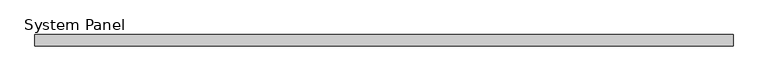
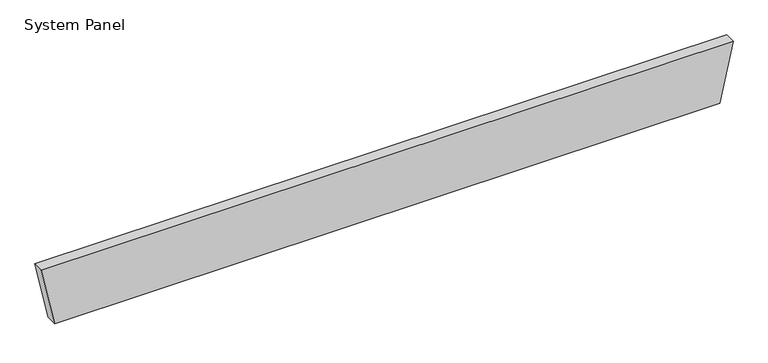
"""IFC4 building model written with IfcOpenShell, lengths in millimetres: plate geometry, System Panel : MetecnoPanel_200mm_Plain_Surfmist."""

from ifc_helpers import new_model, si_unit, frame, origin, place, context, project, spatial, polyline, outline, extrude, source, transform, mapped, element, save


def system_panel_6e68f707(model_context):
    return source(origin(), model_context, "Body", "SweptSolid", [
        extrude(outline(polyline([(0.0, -6000.0), (0.0, 6000.0), (1100.0, 6239.1323567), (1100.0, -6239.1323567), (0.0, -6000.0)])), frame((0.0, -200.0, 0.0), z_axis=(0.0, 1.0, 0.0), x_axis=(0.0, 0.0, 1.0)), (0.0, 0.0, 1.0), 200.0),
    ])


if __name__ == "__main__":
    model = new_model("IFC4")
    model_context = context("Model", 3, world=origin())
    ifc_project = project(units=[si_unit("LENGTHUNIT", "METRE", prefix="MILLI")], contexts=[model_context])
    site = spatial("IfcSite", under=ifc_project)
    building = spatial("IfcBuilding", under=site)
    placement = place(None, origin())
    system_panel_shape = system_panel_6e68f707(model_context)
    element("IfcPlate", 1, ObjectType="System Panel : MetecnoPanel_200mm_Plain_Surfmist", at=placement, inside=building, context=model_context, shape_type="MappedRepresentation", body=[
        mapped(system_panel_shape, transform((0.0, 0.0, 0.0), x_axis=(1.0, 0.0, 0.0), y_axis=(0.0, 1.0, 0.0), z_axis=(0.0, 0.0, 1.0))),
    ])
    save(model, "model.ifc")
